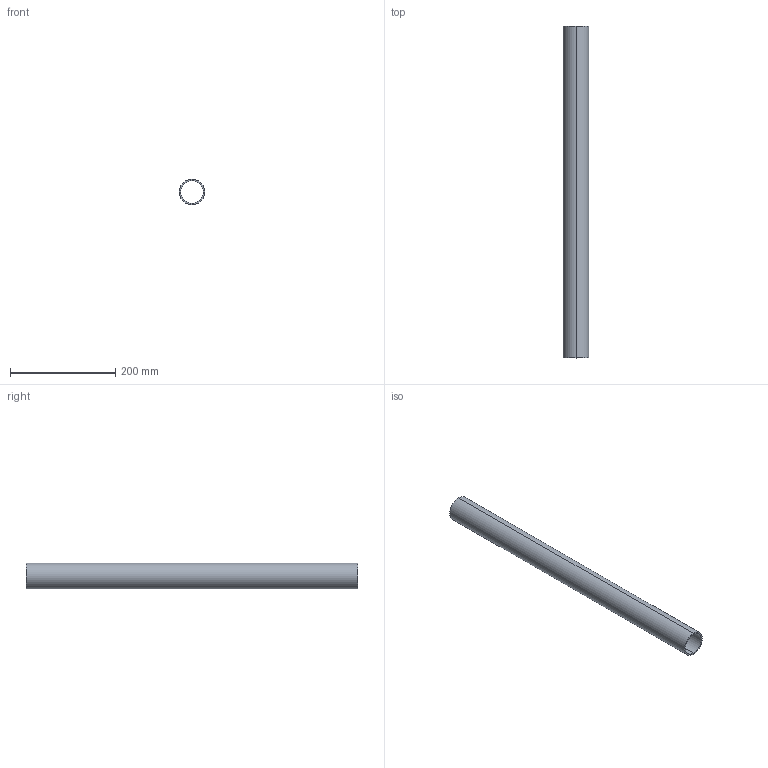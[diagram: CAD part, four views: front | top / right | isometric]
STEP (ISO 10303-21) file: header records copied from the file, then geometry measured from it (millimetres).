
FILE_DESCRIPTION (( 'STEP AP214' ), '1' );
FILE_NAME ('CCJ029-REP.219 - MAIN COURANTE PLANCHER INFERIEUR B6-ESCALIER.STEP', '2024-01-10T14:59:45', ( '' ), ( '' ), 'SwSTEP 2.0', 'SolidWorks 2021', '' );
FILE_SCHEMA (( 'AUTOMOTIVE_DESIGN' ));
Length unit declared in the file: millimetre
Products named in the file (1): CCJ029-REP.219 - MAIN COURANTE PLANCHER INFERIEUR B6-ESCALIER
Bounding box: 48.3 x 630 x 48.3 mm (x, y, z)
Volume: 226618.8 mm3; surface area: 182014.5 mm2
Topology: 1 solids, 1 shells, 6 faces, 12 edges, 8 vertices
Faces by surface type: cylinder 4, plane 2
Entity records: 202 total; most frequent: DIRECTION 34, CARTESIAN_POINT 27, ORIENTED_EDGE 24, AXIS2_PLACEMENT_3D 15, EDGE_CURVE 12, EDGE_LOOP 8, VERTEX_POINT 8, CIRCLE 8
